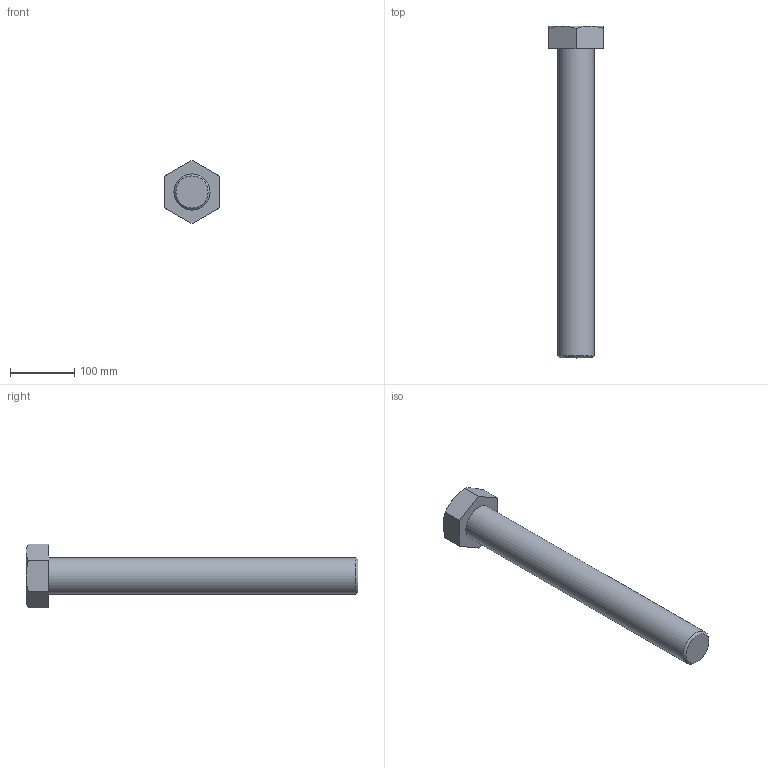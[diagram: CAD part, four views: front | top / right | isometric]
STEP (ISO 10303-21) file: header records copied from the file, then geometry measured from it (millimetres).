
FILE_DESCRIPTION(/* description */ (''),/* implementation_level */ '2;1');
FILE_NAME(/* name */ 'C:\Users\unitec\Documents\Inventor\各種小物\JIS\JIS B 1180 六角ボルト 等級C\hbc56\M56x480.stp',/* time_stamp */ '2015-02-13T15:00:15+09:00',/* author */ ('unitec'),/* organization */ (''),/* preprocessor_version */ 'ST-DEVELOPER v15.2',/* originating_system */ 'Autodesk Inventor 2014',/* authorisation */ '');
FILE_SCHEMA (('AUTOMOTIVE_DESIGN { 1 0 10303 214 3 1 1 }'));
Length unit declared in the file: millimetre
Products named in the file (1): M56x480
Bounding box: 85 x 515 x 98.15 mm (x, y, z)
Volume: 1399774.9 mm3; surface area: 106643.9 mm2
Topology: 1 solids, 1 shells, 17 faces, 35 edges, 21 vertices
Faces by surface type: plane 9, cone 7, cylinder 1
Full cylindrical faces by diameter (mm): 56 x1
Entity records: 441 total; most frequent: CARTESIAN_POINT 96, ORIENTED_EDGE 66, DIRECTION 66, EDGE_CURVE 33, AXIS2_PLACEMENT_3D 27, VERTEX_POINT 21, EDGE_LOOP 20, ADVANCED_FACE 17
